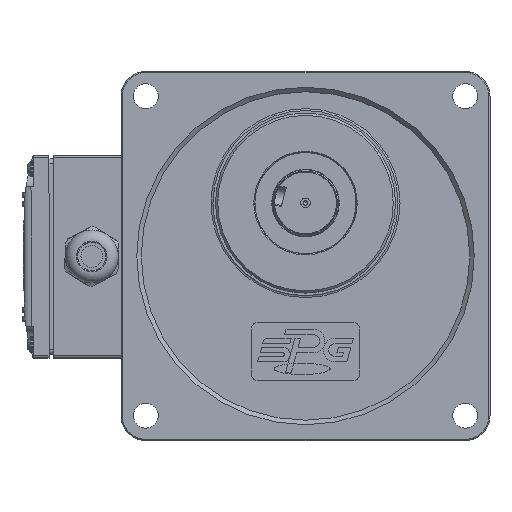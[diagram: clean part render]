
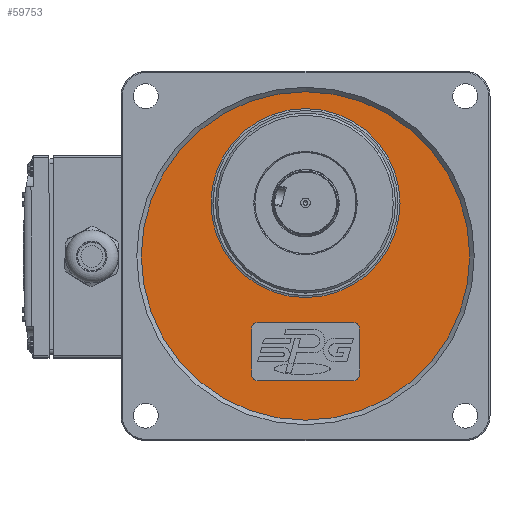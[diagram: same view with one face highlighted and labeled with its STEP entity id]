
A CAD part, top view. The second image highlights one B-rep face of the part: STEP entity #59753.
In plain terms, the highlighted planar face has unit normal (0, 0, 1).
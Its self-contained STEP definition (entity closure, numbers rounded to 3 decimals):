
#3553=FACE_BOUND('',#12171,.T.);
#3554=FACE_BOUND('',#12172,.T.);
#4527=PLANE('',#65698);
#8480=FACE_OUTER_BOUND('',#12170,.T.);
#12170=EDGE_LOOP('',(#49894));
#12171=EDGE_LOOP('',(#49895,#49896,#49897,#49898,#49899,#49900,#49901,#49902));
#12172=EDGE_LOOP('',(#49903));
#15840=CIRCLE('',#65581,3.);
#15842=CIRCLE('',#65585,3.);
#15844=CIRCLE('',#65589,3.);
#15868=CIRCLE('',#65616,3.);
#15893=CIRCLE('',#65699,73.);
#15894=CIRCLE('',#65700,42.);
#18844=LINE('',#128610,#21672);
#18848=LINE('',#128622,#21676);
#18883=LINE('',#128741,#21711);
#18976=LINE('',#128973,#21804);
#21672=VECTOR('',#79295,42.);
#21676=VECTOR('',#79307,20.);
#21711=VECTOR('',#79398,42.);
#21804=VECTOR('',#79657,20.);
#26462=VERTEX_POINT('',#128600);
#26463=VERTEX_POINT('',#128602);
#26465=VERTEX_POINT('',#128608);
#26467=VERTEX_POINT('',#128614);
#26469=VERTEX_POINT('',#128620);
#26472=VERTEX_POINT('',#128627);
#26473=VERTEX_POINT('',#128629);
#26525=VERTEX_POINT('',#128740);
#26582=VERTEX_POINT('',#128975);
#26583=VERTEX_POINT('',#128977);
#34312=EDGE_CURVE('',#26462,#26463,#15840,.T.);
#34316=EDGE_CURVE('',#26462,#26465,#18844,.T.);
#34319=EDGE_CURVE('',#26467,#26465,#15842,.T.);
#34322=EDGE_CURVE('',#26467,#26469,#18848,.T.);
#34325=EDGE_CURVE('',#26472,#26473,#15844,.T.);
#34382=EDGE_CURVE('',#26525,#26473,#18883,.T.);
#34384=EDGE_CURVE('',#26525,#26469,#15868,.T.);
#34500=EDGE_CURVE('',#26472,#26463,#18976,.T.);
#34501=EDGE_CURVE('',#26582,#26582,#15893,.T.);
#34502=EDGE_CURVE('',#26583,#26583,#15894,.T.);
#49894=ORIENTED_EDGE('',*,*,#34501,.T.);
#49895=ORIENTED_EDGE('',*,*,#34322,.T.);
#49896=ORIENTED_EDGE('',*,*,#34384,.F.);
#49897=ORIENTED_EDGE('',*,*,#34382,.T.);
#49898=ORIENTED_EDGE('',*,*,#34325,.F.);
#49899=ORIENTED_EDGE('',*,*,#34500,.T.);
#49900=ORIENTED_EDGE('',*,*,#34312,.F.);
#49901=ORIENTED_EDGE('',*,*,#34316,.T.);
#49902=ORIENTED_EDGE('',*,*,#34319,.F.);
#49903=ORIENTED_EDGE('',*,*,#34502,.F.);
#59753=ADVANCED_FACE('',(#8480,#3553,#3554),#4527,.F.);
#65581=AXIS2_PLACEMENT_3D('',#128603,#79288,#79289);
#65585=AXIS2_PLACEMENT_3D('',#128616,#79301,#79302);
#65589=AXIS2_PLACEMENT_3D('',#128630,#79313,#79314);
#65616=AXIS2_PLACEMENT_3D('',#128744,#79402,#79403);
#65698=AXIS2_PLACEMENT_3D('',#128974,#79658,#79659);
#65699=AXIS2_PLACEMENT_3D('',#128976,#79660,#79661);
#65700=AXIS2_PLACEMENT_3D('',#128978,#79662,#79663);
#79288=DIRECTION('center_axis',(0.,0.,1.));
#79289=DIRECTION('ref_axis',(0.707,-0.707,0.));
#79295=DIRECTION('',(-1.,0.,0.));
#79301=DIRECTION('center_axis',(0.,0.,1.));
#79302=DIRECTION('ref_axis',(-0.707,-0.707,0.));
#79307=DIRECTION('',(0.,1.,0.));
#79313=DIRECTION('center_axis',(0.,0.,1.));
#79314=DIRECTION('ref_axis',(0.707,0.707,0.));
#79398=DIRECTION('',(1.,0.,0.));
#79402=DIRECTION('center_axis',(0.,0.,1.));
#79403=DIRECTION('ref_axis',(-0.707,0.707,0.));
#79657=DIRECTION('',(0.,-1.,0.));
#79658=DIRECTION('center_axis',(0.,0.,-1.));
#79659=DIRECTION('ref_axis',(-1.,0.,0.));
#79660=DIRECTION('center_axis',(0.,0.,1.));
#79661=DIRECTION('ref_axis',(-1.,0.,0.));
#79662=DIRECTION('center_axis',(0.,0.,1.));
#79663=DIRECTION('ref_axis',(-1.,0.,0.));
#128600=CARTESIAN_POINT('',(46.524,-54.989,27.));
#128602=CARTESIAN_POINT('',(49.524,-51.989,27.));
#128603=CARTESIAN_POINT('Origin',(46.524,-51.989,27.));
#128608=CARTESIAN_POINT('',(4.524,-54.989,27.));
#128610=CARTESIAN_POINT('',(46.524,-54.989,27.));
#128614=CARTESIAN_POINT('',(1.524,-51.989,27.));
#128616=CARTESIAN_POINT('Origin',(4.524,-51.989,27.));
#128620=CARTESIAN_POINT('',(1.524,-31.989,27.));
#128622=CARTESIAN_POINT('',(1.524,-51.989,27.));
#128627=CARTESIAN_POINT('',(49.524,-31.989,27.));
#128629=CARTESIAN_POINT('',(46.524,-28.989,27.));
#128630=CARTESIAN_POINT('Origin',(46.524,-31.989,27.));
#128740=CARTESIAN_POINT('',(4.524,-28.989,27.));
#128741=CARTESIAN_POINT('',(4.524,-28.989,27.));
#128744=CARTESIAN_POINT('Origin',(4.524,-31.989,27.));
#128973=CARTESIAN_POINT('',(49.524,-31.989,27.));
#128974=CARTESIAN_POINT('Origin',(25.524,0.511,27.));
#128975=CARTESIAN_POINT('',(98.524,0.511,27.));
#128976=CARTESIAN_POINT('Origin',(25.524,0.511,27.));
#128977=CARTESIAN_POINT('',(-16.476,24.011,27.));
#128978=CARTESIAN_POINT('Origin',(25.524,24.011,27.));
